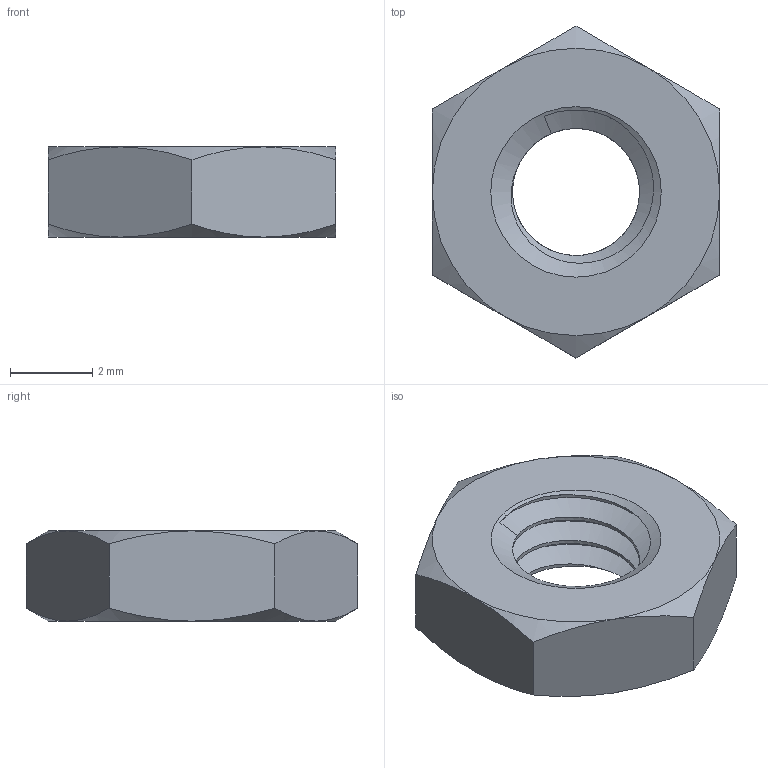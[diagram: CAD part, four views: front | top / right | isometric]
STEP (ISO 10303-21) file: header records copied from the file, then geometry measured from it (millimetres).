
FILE_DESCRIPTION(/* description */ ('STEP AP242 Edition 2','CAx-IF Rec.Pracs.---Representation and Presentation of Product Manufacturing Information (PMI)---4.0---2014-10-13','CAx-IF Rec.Pracs.---3D Tessellated Geometry---0.4---2014-09-14','2;1','CAx-IF Rec.Pracs.---User Defined Attributes---1.5---2016-08-15'),/* implementation_level */ '2;1');
FILE_NAME(/* name */ 'Main - 90695A035_Medium-Strength Steel Thin-Profile Hex Nut',/* time_stamp */ '2026-09-13T15:49:56Z',/* author */ (''),/* organization */ (''),/* preprocessor_version */ 'ST-DEVELOPER v20',/* originating_system */ 'ONSHAPE BY PTC INC, 1.220',/* authorisation */ ' ');
FILE_SCHEMA (('AP242_MANAGED_MODEL_BASED_3D_ENGINEERING_MIM_LF { 1 0 10303 442 3 1 4 }'));
Length unit declared in the file: metre
Products named in the file (1): 90695A035_Medium-Strength Steel Thin-Profile Hex Nut
Bounding box: 7 x 8.08 x 2.2 mm (x, y, z)
Volume: 69.9 mm3; surface area: 151.9 mm2
Topology: 1 solids, 1 shells, 26 faces, 72 edges, 48 vertices
Faces by surface type: cone 14, plane 8, cylinder 2, bspline 2
Entity records: 1128 total; most frequent: CARTESIAN_POINT 545, ORIENTED_EDGE 136, DIRECTION 94, EDGE_CURVE 68, VERTEX_POINT 46, AXIS2_PLACEMENT_3D 43, EDGE_LOOP 30, FACE_BOUND 30
